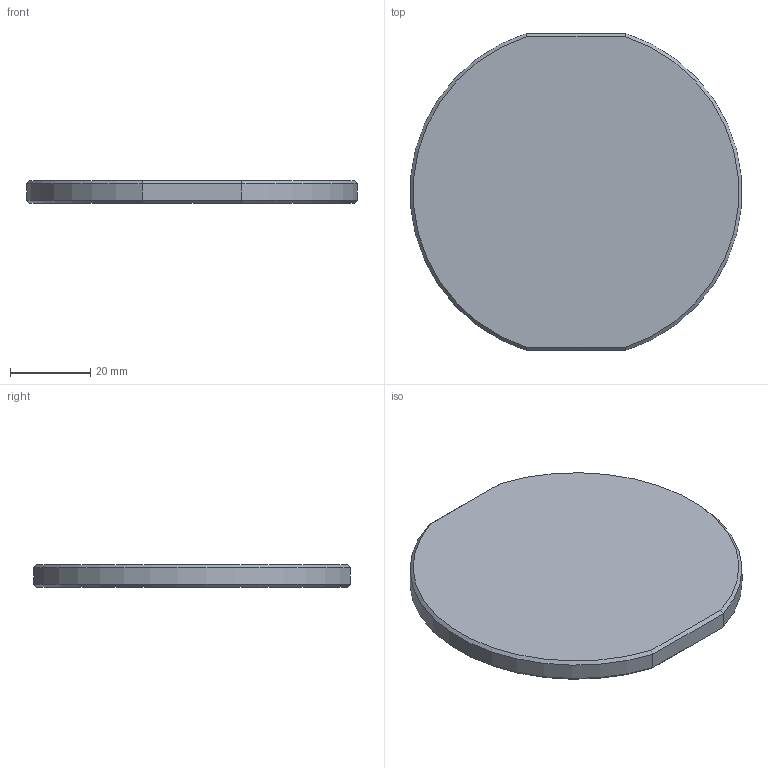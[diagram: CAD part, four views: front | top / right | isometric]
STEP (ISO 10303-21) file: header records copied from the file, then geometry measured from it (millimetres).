
FILE_DESCRIPTION((''),'2;1');
FILE_NAME('MSC-4001H','2007-09-28T',('glafferty'),('Pleasant Precision, Inc. (419)675-0556'),'PRO/ENGINEER BY PARAMETRIC TECHNOLOGY CORPORATION, 2006080','PRO/ENGINEER BY PARAMETRIC TECHNOLOGY CORPORATION, 2006080','');
FILE_SCHEMA(('CONFIG_CONTROL_DESIGN'));
Length unit declared in the file: inch
Products named in the file (1): MSC-4001H
Bounding box: 82.26 x 78.74 x 5.59 mm (x, y, z)
Volume: 29404.6 mm3; surface area: 11790.1 mm2
Topology: 1 solids, 1 shells, 14 faces, 28 edges, 16 vertices
Faces by surface type: plane 8, cone 4, cylinder 2
Entity records: 420 total; most frequent: CARTESIAN_POINT 98, DIRECTION 56, ORIENTED_EDGE 56, EDGE_CURVE 28, AXIS2_PLACEMENT_3D 22, VERTEX_POINT 16, EDGE_LOOP 14, FACE_OUTER_BOUND 14
